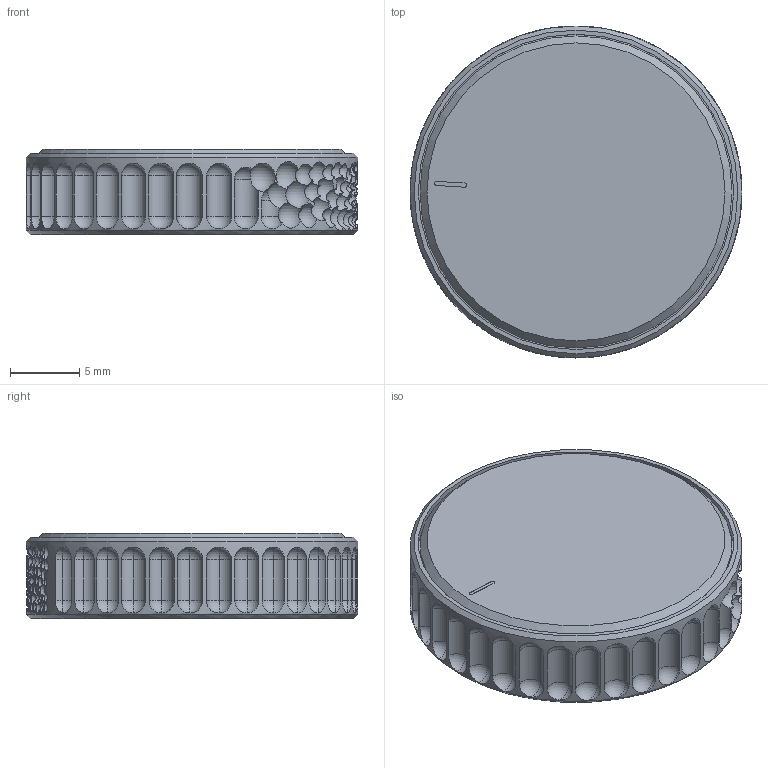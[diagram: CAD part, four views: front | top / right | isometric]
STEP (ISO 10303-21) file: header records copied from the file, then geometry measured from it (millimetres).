
FILE_DESCRIPTION(('Open CASCADE Model'),'2;1');
FILE_NAME('A17-entropihjul-V2-R01','2026-10-20T19:02:34',('Author'),( 'Open CASCADE'),'Open CASCADE STEP processor 8.0','build123d', 'Unknown');
FILE_SCHEMA(('AUTOMOTIVE_DESIGN { 1 0 10303 214 1 1 1 1 }'));
Length unit declared in the file: millimetre
Products named in the file (4): A17-entropihjul-V2-R01; A17-entropihjul-V2-R01_ring_riflet; A17-entropihjul-V2-R01_lokk; A17-entropihjul-V2-R01_indeks_lakk
Assembly tree (3 placements, depth 2):
  A17-entropihjul-V2-R01
    A17-entropihjul-V2-R01_ring_riflet
    A17-entropihjul-V2-R01_lokk
    A17-entropihjul-V2-R01_indeks_lakk
Bounding box: 24 x 24 x 6.15 mm (x, y, z)
Volume: 2475.9 mm3; surface area: 2450 mm2
Topology: 3 solids, 3 shells, 655 faces, 1986 edges, 1357 vertices
Faces by surface type: sphere 414, cylinder 224, plane 14, cone 3
Full cylindrical faces by diameter (mm): 22.56 x1, 22.8 x1, 24 x1
Entity records: 658134 total; most frequent: CARTESIAN_POINT 626250, B_SPLINE_CURVE_WITH_KNOTS 4481, ORIENTED_EDGE 3972, PCURVE 3972, DEFINITIONAL_REPRESENTATION 3972, DIRECTION 3766, EDGE_CURVE 1986, SURFACE_CURVE 1980
